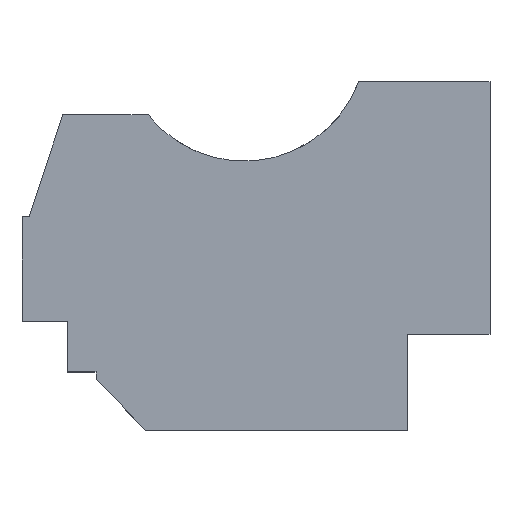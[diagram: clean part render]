
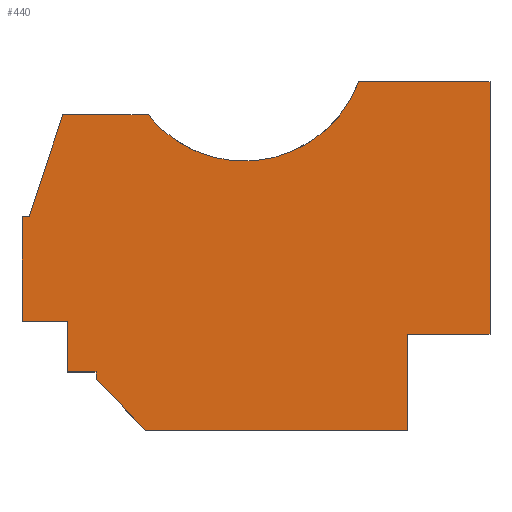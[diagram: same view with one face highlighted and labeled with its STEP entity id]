
A CAD part, top view. The second image highlights one B-rep face of the part: STEP entity #440.
In plain terms, the highlighted planar face has unit normal (0, 0, 1).
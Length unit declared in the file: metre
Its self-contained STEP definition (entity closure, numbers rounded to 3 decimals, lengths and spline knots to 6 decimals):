
#15=CIRCLE('',#479,0.014134);
#58=ORIENTED_EDGE('',*,*,#175,.T.);
#59=ORIENTED_EDGE('',*,*,#176,.T.);
#60=ORIENTED_EDGE('',*,*,#177,.T.);
#61=ORIENTED_EDGE('',*,*,#178,.T.);
#62=ORIENTED_EDGE('',*,*,#179,.T.);
#63=ORIENTED_EDGE('',*,*,#180,.F.);
#64=ORIENTED_EDGE('',*,*,#181,.T.);
#65=ORIENTED_EDGE('',*,*,#182,.F.);
#66=ORIENTED_EDGE('',*,*,#183,.F.);
#67=ORIENTED_EDGE('',*,*,#184,.F.);
#68=ORIENTED_EDGE('',*,*,#185,.F.);
#69=ORIENTED_EDGE('',*,*,#186,.F.);
#70=ORIENTED_EDGE('',*,*,#187,.F.);
#71=ORIENTED_EDGE('',*,*,#188,.T.);
#72=ORIENTED_EDGE('',*,*,#189,.T.);
#175=EDGE_CURVE('',#233,#234,#278,.T.);
#176=EDGE_CURVE('',#234,#235,#279,.T.);
#177=EDGE_CURVE('',#235,#236,#280,.T.);
#178=EDGE_CURVE('',#236,#237,#281,.T.);
#179=EDGE_CURVE('',#237,#238,#15,.T.);
#180=EDGE_CURVE('',#239,#238,#282,.T.);
#181=EDGE_CURVE('',#239,#240,#283,.T.);
#182=EDGE_CURVE('',#241,#240,#284,.T.);
#183=EDGE_CURVE('',#242,#241,#285,.T.);
#184=EDGE_CURVE('',#243,#242,#286,.T.);
#185=EDGE_CURVE('',#244,#243,#287,.T.);
#186=EDGE_CURVE('',#245,#244,#288,.T.);
#187=EDGE_CURVE('',#246,#245,#289,.T.);
#188=EDGE_CURVE('',#246,#247,#290,.T.);
#189=EDGE_CURVE('',#247,#233,#291,.T.);
#233=VERTEX_POINT('',#680);
#234=VERTEX_POINT('',#681);
#235=VERTEX_POINT('',#683);
#236=VERTEX_POINT('',#685);
#237=VERTEX_POINT('',#687);
#238=VERTEX_POINT('',#689);
#239=VERTEX_POINT('',#691);
#240=VERTEX_POINT('',#693);
#241=VERTEX_POINT('',#695);
#242=VERTEX_POINT('',#697);
#243=VERTEX_POINT('',#699);
#244=VERTEX_POINT('',#701);
#245=VERTEX_POINT('',#703);
#246=VERTEX_POINT('',#705);
#247=VERTEX_POINT('',#707);
#278=LINE('',#679,#337);
#279=LINE('',#682,#338);
#280=LINE('',#684,#339);
#281=LINE('',#686,#340);
#282=LINE('',#690,#341);
#283=LINE('',#692,#342);
#284=LINE('',#694,#343);
#285=LINE('',#696,#344);
#286=LINE('',#698,#345);
#287=LINE('',#700,#346);
#288=LINE('',#702,#347);
#289=LINE('',#704,#348);
#290=LINE('',#706,#349);
#291=LINE('',#708,#350);
#337=VECTOR('',#547,1.);
#338=VECTOR('',#548,1.);
#339=VECTOR('',#549,1.);
#340=VECTOR('',#550,1.);
#341=VECTOR('',#553,1.);
#342=VECTOR('',#554,1.);
#343=VECTOR('',#555,1.);
#344=VECTOR('',#556,1.);
#345=VECTOR('',#557,1.);
#346=VECTOR('',#558,1.);
#347=VECTOR('',#559,1.);
#348=VECTOR('',#560,1.);
#349=VECTOR('',#561,1.);
#350=VECTOR('',#562,1.);
#372=EDGE_LOOP('',(#58,#59,#60,#61,#62,#63,#64,#65,#66,#67,#68,#69,#70,
#71,#72));
#395=FACE_BOUND('',#372,.T.);
#418=PLANE('',#478);
#440=ADVANCED_FACE('',(#395),#418,.F.);
#478=AXIS2_PLACEMENT_3D('',#678,#545,#546);
#479=AXIS2_PLACEMENT_3D('',#688,#551,#552);
#545=DIRECTION('',(0.,0.,-1.));
#546=DIRECTION('',(0.,1.,0.));
#547=DIRECTION('',(0.,1.,0.));
#548=DIRECTION('',(1.,0.,0.));
#549=DIRECTION('',(0.,1.,0.));
#550=DIRECTION('',(-1.,0.,0.));
#551=DIRECTION('',(0.,0.,-1.));
#552=DIRECTION('',(-1.,0.,0.));
#553=DIRECTION('',(1.,0.,0.));
#554=DIRECTION('',(-0.311,-0.95,0.));
#555=DIRECTION('',(1.,0.,0.));
#556=DIRECTION('',(0.,1.,0.));
#557=DIRECTION('',(-1.,0.,0.));
#558=DIRECTION('',(0.,1.,0.));
#559=DIRECTION('',(-1.,0.,0.));
#560=DIRECTION('',(0.,1.,0.));
#561=DIRECTION('',(0.687,-0.726,0.));
#562=DIRECTION('',(1.,0.,0.));
#678=CARTESIAN_POINT('',(0.009669,0.002971,0.017588));
#679=CARTESIAN_POINT('',(0.028923,-0.025694,0.017588));
#680=CARTESIAN_POINT('',(0.028923,-0.03123,0.017588));
#681=CARTESIAN_POINT('',(0.028923,-0.020157,0.017588));
#682=CARTESIAN_POINT('',(0.033684,-0.020157,0.017588));
#683=CARTESIAN_POINT('',(0.038445,-0.020157,0.017588));
#684=CARTESIAN_POINT('',(0.038445,-0.005581,0.017588));
#685=CARTESIAN_POINT('',(0.038445,0.008996,0.017588));
#686=CARTESIAN_POINT('',(0.030876,0.008996,0.017588));
#687=CARTESIAN_POINT('',(0.023307,0.008996,0.017588));
#688=CARTESIAN_POINT('',(0.010069,0.01395,0.017588));
#689=CARTESIAN_POINT('',(-0.001013,0.005177,0.017588));
#690=CARTESIAN_POINT('',(-0.005941,0.005177,0.017588));
#691=CARTESIAN_POINT('',(-0.010869,0.005177,0.017588));
#692=CARTESIAN_POINT('',(-0.012795,-0.000706,0.017588));
#693=CARTESIAN_POINT('',(-0.01472,-0.006589,0.017588));
#694=CARTESIAN_POINT('',(-0.015142,-0.006589,0.017588));
#695=CARTESIAN_POINT('',(-0.015563,-0.006589,0.017588));
#696=CARTESIAN_POINT('',(-0.015563,-0.012634,0.017588));
#697=CARTESIAN_POINT('',(-0.015563,-0.018678,0.017588));
#698=CARTESIAN_POINT('',(-0.012954,-0.018678,0.017588));
#699=CARTESIAN_POINT('',(-0.010345,-0.018678,0.017588));
#700=CARTESIAN_POINT('',(-0.010345,-0.021587,0.017588));
#701=CARTESIAN_POINT('',(-0.010345,-0.024496,0.017588));
#702=CARTESIAN_POINT('',(-0.008684,-0.024496,0.017588));
#703=CARTESIAN_POINT('',(-0.007023,-0.024496,0.017588));
#704=CARTESIAN_POINT('',(-0.007023,-0.024867,0.017588));
#705=CARTESIAN_POINT('',(-0.007023,-0.025239,0.017588));
#706=CARTESIAN_POINT('',(-0.004188,-0.028234,0.017588));
#707=CARTESIAN_POINT('',(-0.001353,-0.03123,0.017588));
#708=CARTESIAN_POINT('',(0.013785,-0.03123,0.017588));
